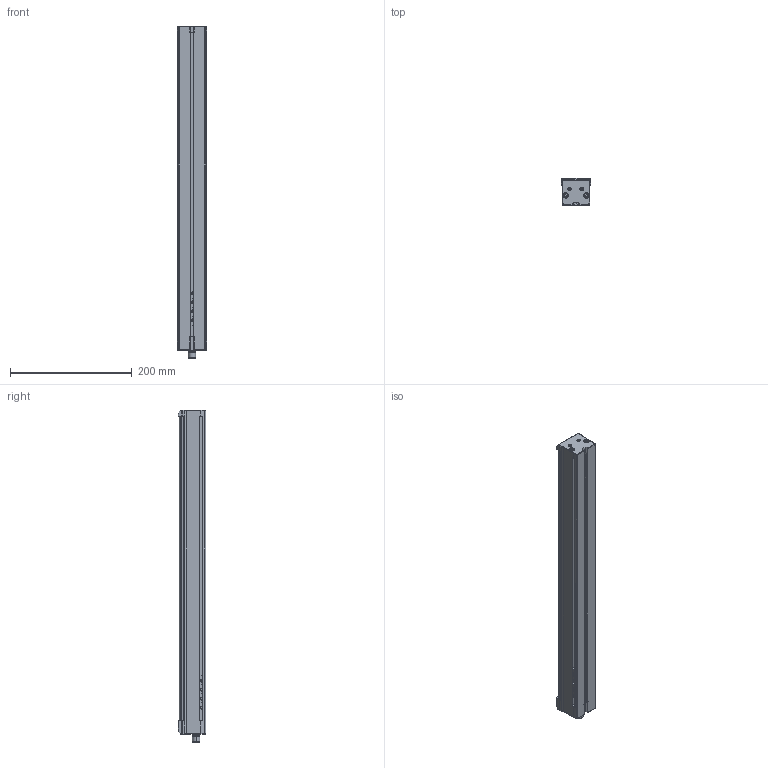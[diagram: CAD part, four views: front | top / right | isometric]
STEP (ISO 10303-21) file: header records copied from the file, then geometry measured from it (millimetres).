
FILE_DESCRIPTION (( 'STEP AP214' ), '1' );
FILE_NAME ('EBAR-HPS-500-xxx-UN_CLIENT.STEP', '2025-11-18T11:57:13', ( '' ), ( '' ), 'SwSTEP 2.0', 'SolidWorks 2025', '' );
FILE_SCHEMA (( 'AUTOMOTIVE_DESIGN' ));
Length unit declared in the file: millimetre
Products named in the file (3): EBAR-HPS-xxx-xxx-xx_CLIENT_500; EBAR-HPS-500-xxx-UN_CLIENT; M4 T-Slot Nut
Assembly tree (13 placements, depth 2):
  EBAR-HPS-500-xxx-UN_CLIENT
    EBAR-HPS-xxx-xxx-xx_CLIENT_500
    M4 T-Slot Nut  x12
Bounding box: 47.63 x 45 x 545.06 mm (x, y, z)
Volume: 910845.9 mm3; surface area: 133837.4 mm2
Topology: 13 solids, 13 shells, 986 faces, 2564 edges, 1670 vertices
Faces by surface type: plane 484, cylinder 270, bspline 140, torus 62, sphere 16, cone 14
Entity records: 29235 total; most frequent: CARTESIAN_POINT 10271, ORIENTED_EDGE 4098, DIRECTION 3554, EDGE_CURVE 2049, VERTEX_POINT 1329, AXIS2_PLACEMENT_3D 1216, VECTOR 1122, LINE 1122
